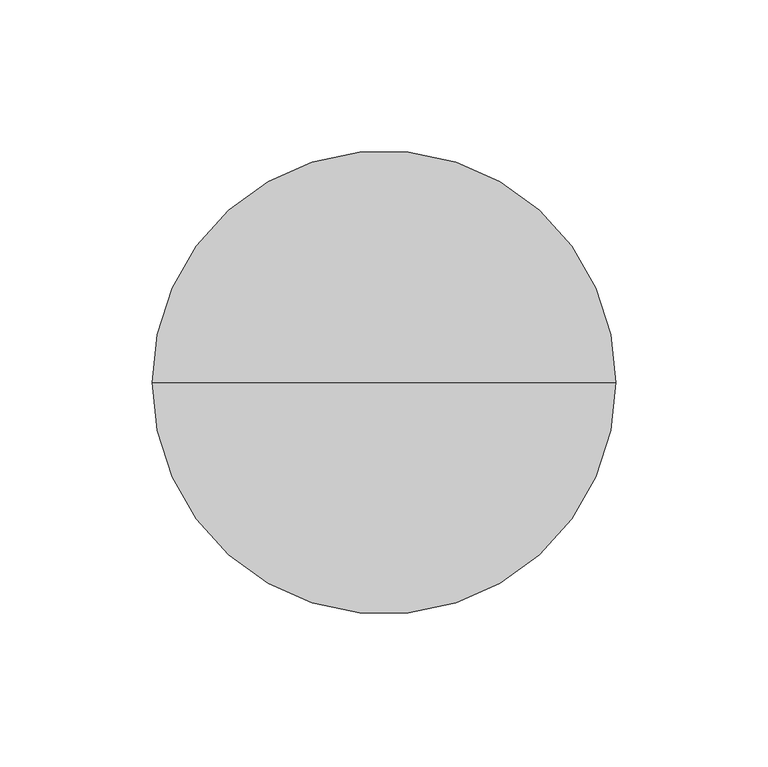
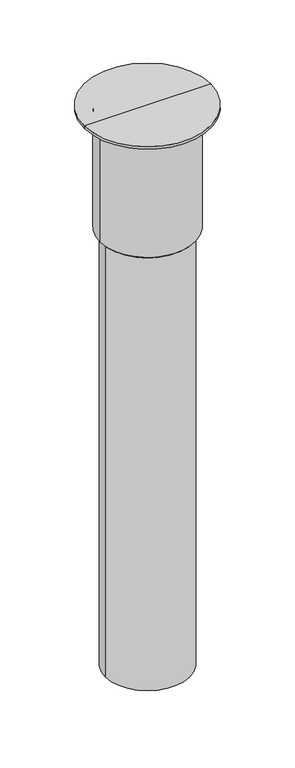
"""IFC4 building model written with IfcOpenShell, lengths in millimetres: furniture geometry, Haworth_Masters_Accessories_ColumnBase : XZEC-2804."""

from ifc_helpers import new_model, si_unit, frame, origin, place, context, project, spatial, polyline, circle_curve, source, transform, mapped, element, save
from ifc_brep_helpers import plane_surface, cylinder_surface, revolved_surface, advanced_brep


def furniture_0dfae0ba(model_context):
    return source(origin(), model_context, "Body", "AdvancedBrep", [
        advanced_brep(
        [(56.1339646, 139.7, 555.6249879), (-56.1339646, 139.7, 555.6249879), (-57.15, 139.7, 556.6410233), (57.15, 139.7, 556.6410233), (50.7999879, 139.7, 555.6249879), (-50.7999879, 139.7, 555.6249879), (50.7999879, 139.7, 0.0), (-50.7999879, 139.7, 0.0), (0.0, 139.7, 0.0), (57.15, 139.7, 708.025), (-57.15, 139.7, 708.025), (-76.2000026, 139.7, 708.025), (76.2000026, 139.7, 708.025), (76.2000026, 139.7, 711.2), (-76.2000026, 139.7, 711.2), (0.0, 139.7, 711.2)],
        [
            (0, 1, circle_curve(frame((0.0, 139.7, 555.6249879), z_axis=(0.0, 0.0, 1.0), x_axis=(-1.0, 0.0, 0.0)), 56.1339646)),
            (1, 2),
            (2, 3, circle_curve(frame((0.0, 139.7, 556.6410233), z_axis=(0.0, 0.0, -1.0), x_axis=(-1.0, 0.0, 0.0)), 57.15)),
            (3, 0),
            (1, 0, circle_curve(frame((0.0, 139.7, 555.6249879), z_axis=(0.0, 0.0, 1.0), x_axis=(-1.0, 0.0, 0.0)), 56.1339646)),
            (3, 2, circle_curve(frame((0.0, 139.7, 556.6410233), z_axis=(0.0, 0.0, -1.0), x_axis=(-1.0, 0.0, 0.0)), 57.15)),
            (4, 5, circle_curve(frame((0.0, 139.7, 555.6249879), z_axis=(0.0, 0.0, 1.0), x_axis=(-1.0, 0.0, 0.0)), 50.7999879)),
            (5, 1),
            (0, 4),
            (5, 4, circle_curve(frame((0.0, 139.7, 555.6249879), z_axis=(0.0, 0.0, 1.0), x_axis=(-1.0, 0.0, 0.0)), 50.7999879)),
            (6, 7, circle_curve(frame((0.0, 139.7, 0.0), z_axis=(0.0, 0.0, 1.0), x_axis=(-1.0, 0.0, 0.0)), 50.7999879)),
            (7, 5),
            (4, 6),
            (7, 6, circle_curve(frame((0.0, 139.7, 0.0), z_axis=(0.0, 0.0, 1.0), x_axis=(-1.0, 0.0, 0.0)), 50.7999879)),
            (8, 7),
            (6, 8),
            (9, 10, circle_curve(frame((0.0, 139.7, 708.025), z_axis=(0.0, 0.0, 1.0), x_axis=(-1.0, 0.0, 0.0)), 57.15)),
            (10, 11),
            (11, 12, circle_curve(frame((0.0, 139.7, 708.025), z_axis=(0.0, 0.0, -1.0), x_axis=(-1.0, 0.0, 0.0)), 76.2000026)),
            (12, 9),
            (10, 9, circle_curve(frame((0.0, 139.7, 708.025), z_axis=(0.0, 0.0, 1.0), x_axis=(-1.0, 0.0, 0.0)), 57.15)),
            (12, 11, circle_curve(frame((0.0, 139.7, 708.025), z_axis=(0.0, 0.0, -1.0), x_axis=(-1.0, 0.0, 0.0)), 76.2000026)),
            (2, 10),
            (9, 3),
            (13, 14, circle_curve(frame((0.0, 139.7, 711.2), z_axis=(0.0, 0.0, 1.0), x_axis=(-1.0, 0.0, 0.0)), 76.2000026)),
            (14, 15),
            (15, 13),
            (14, 13, circle_curve(frame((0.0, 139.7, 711.2), z_axis=(0.0, 0.0, 1.0), x_axis=(-1.0, 0.0, 0.0)), 76.2000026)),
            (11, 14),
            (13, 12),
        ],
        [
            revolved_surface(polyline([(-57.15, 139.7, 556.6410233), (-56.1339646, 139.7, 555.6249879)]), (0.0, 139.7, 777.8750242), (0.0, 0.0, -1.0)),
            plane_surface(frame((0.0, 139.7, 555.6249879), z_axis=(0.0, 0.0, -1.0), x_axis=(-1.0, 0.0, 0.0))),
            cylinder_surface(frame((0.0, 139.7, 777.8750242), z_axis=(0.0, 0.0, -1.0), x_axis=(-1.0, 0.0, 0.0)), 50.7999879),
            plane_surface(frame((0.0, 139.7, 0.0), z_axis=(0.0, 0.0, -1.0), x_axis=(-1.0, 0.0, 0.0))),
            plane_surface(frame((0.0, 139.7, 708.025), z_axis=(0.0, 0.0, -1.0), x_axis=(-1.0, 0.0, 0.0))),
            cylinder_surface(frame((0.0, 139.7, 777.8750242), z_axis=(0.0, 0.0, -1.0), x_axis=(-1.0, 0.0, 0.0)), 57.15),
            plane_surface(frame((0.0, 139.7, 711.2), z_axis=(0.0, 0.0, 1.0), x_axis=(-1.0, 0.0, 0.0))),
            cylinder_surface(frame((0.0, 139.7, 777.8750242), z_axis=(0.0, 0.0, -1.0), x_axis=(-1.0, 0.0, 0.0)), 76.2000026),
        ],
        [
            (0, [[1, 2, 3, 4]]),
            (0, [[5, -4, 6, -2]]),
            (1, [[7, 8, -1, 9]]),
            (1, [[10, -9, -5, -8]]),
            (2, [[11, 12, -7, 13]]),
            (2, [[14, -13, -10, -12]]),
            (3, [[15, -11, 16]]),
            (3, [[-16, -14, -15]]),
            (4, [[17, 18, 19, 20]]),
            (4, [[21, -20, 22, -18]]),
            (5, [[-3, 23, -17, 24]]),
            (5, [[-6, -24, -21, -23]]),
            (6, [[25, 26, 27]]),
            (6, [[28, -27, -26]]),
            (7, [[-19, 29, -25, 30]]),
            (7, [[-22, -30, -28, -29]]),
        ],
    ),
    ])


if __name__ == "__main__":
    model = new_model("IFC4")
    model_context = context("Model", 3, world=origin())
    ifc_project = project(units=[si_unit("LENGTHUNIT", "METRE", prefix="MILLI")], contexts=[model_context])
    site = spatial("IfcSite", under=ifc_project)
    building = spatial("IfcBuilding", under=site)
    placement = place(None, origin())
    furniture_shape = furniture_0dfae0ba(model_context)
    element("IfcFurniture", 1, ObjectType="Haworth_Masters_Accessories_ColumnBase : XZEC-2804", at=placement, inside=building, context=model_context, shape_type="MappedRepresentation", body=[
        mapped(furniture_shape, transform((0.0, 0.0, 0.0), x_axis=(1.0, 0.0, 0.0), y_axis=(0.0, 1.0, 0.0), z_axis=(0.0, 0.0, 1.0))),
    ])
    save(model, "model.ifc")
